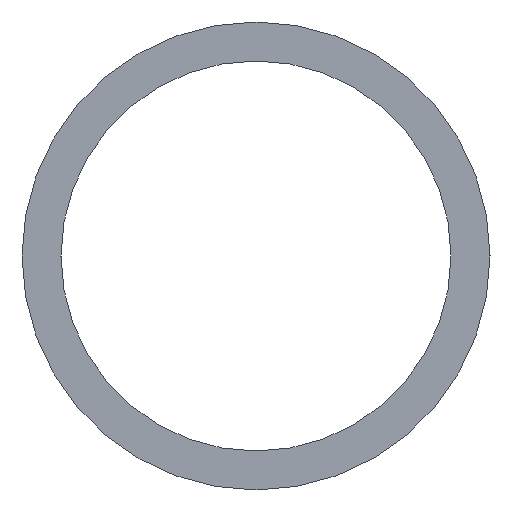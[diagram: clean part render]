
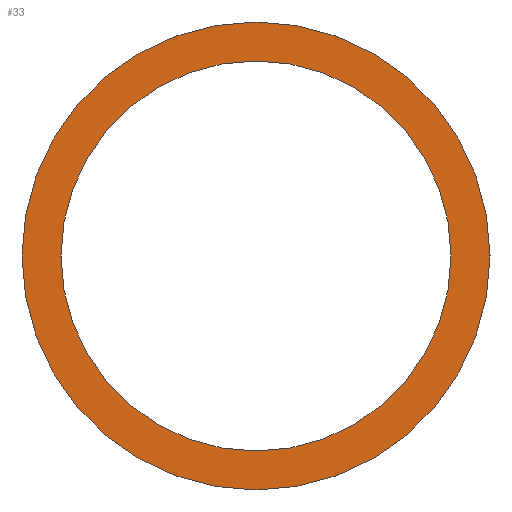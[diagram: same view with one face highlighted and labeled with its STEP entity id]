
A CAD part, left-side view. The second image highlights one B-rep face of the part: STEP entity #33.
In plain terms, the highlighted planar face has unit normal (-1, 0, 0).
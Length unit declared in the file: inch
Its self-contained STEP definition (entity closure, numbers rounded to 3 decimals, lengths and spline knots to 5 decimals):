
#3 = PLANE ( 'NONE',  #127 ) ;
#5 = EDGE_LOOP ( 'NONE', ( #59, #44 ) ) ;
#10 = VERTEX_POINT ( 'NONE', #199 ) ;
#12 = EDGE_CURVE ( 'NONE', #10, #201, #84, .T. ) ;
#22 = ORIENTED_EDGE ( 'NONE', *, *, #12, .F. ) ;
#33 = ADVANCED_FACE ( 'NONE', ( #185, #43 ), #3, .F. ) ;
#41 = EDGE_LOOP ( 'NONE', ( #22, #77 ) ) ;
#43 = FACE_OUTER_BOUND ( 'NONE', #5, .T. ) ;
#44 = ORIENTED_EDGE ( 'NONE', *, *, #102, .F. ) ;
#55 = DIRECTION ( 'NONE',  ( 0., 0., -1. ) ) ;
#58 = CARTESIAN_POINT ( 'NONE',  ( 0., 0., 0. ) ) ;
#59 = ORIENTED_EDGE ( 'NONE', *, *, #180, .F. ) ;
#73 = DIRECTION ( 'NONE',  ( 1., 0., 0. ) ) ;
#77 = ORIENTED_EDGE ( 'NONE', *, *, #195, .F. ) ;
#84 = CIRCLE ( 'NONE', #204, 0.25 ) ;
#85 = CARTESIAN_POINT ( 'NONE',  ( 0., 0., -0.3 ) ) ;
#91 = CARTESIAN_POINT ( 'NONE',  ( 0., 0., 0. ) ) ;
#98 = DIRECTION ( 'NONE',  ( 1., 0., 0. ) ) ;
#100 = CARTESIAN_POINT ( 'NONE',  ( 0., 0., -0.25 ) ) ;
#102 = EDGE_CURVE ( 'NONE', #136, #103, #107, .T. ) ;
#103 = VERTEX_POINT ( 'NONE', #176 ) ;
#107 = CIRCLE ( 'NONE', #182, 0.3 ) ;
#113 = CARTESIAN_POINT ( 'NONE',  ( 0., 0., 0. ) ) ;
#114 = DIRECTION ( 'NONE',  ( 1., 0., 0. ) ) ;
#116 = DIRECTION ( 'NONE',  ( 0., 0., 1. ) ) ;
#120 = CIRCLE ( 'NONE', #173, 0.25 ) ;
#121 = DIRECTION ( 'NONE',  ( 0., 0., 1. ) ) ;
#124 = CIRCLE ( 'NONE', #155, 0.3 ) ;
#127 = AXIS2_PLACEMENT_3D ( 'NONE', #91, #73, #133 ) ;
#131 = DIRECTION ( 'NONE',  ( -1., 0., 0. ) ) ;
#133 = DIRECTION ( 'NONE',  ( 0., 0., -1. ) ) ;
#136 = VERTEX_POINT ( 'NONE', #85 ) ;
#146 = CARTESIAN_POINT ( 'NONE',  ( 0., 0., 0. ) ) ;
#147 = DIRECTION ( 'NONE',  ( -1., 0., 0. ) ) ;
#155 = AXIS2_PLACEMENT_3D ( 'NONE', #146, #114, #55 ) ;
#158 = DIRECTION ( 'NONE',  ( 0., 0., -1. ) ) ;
#173 = AXIS2_PLACEMENT_3D ( 'NONE', #178, #131, #116 ) ;
#176 = CARTESIAN_POINT ( 'NONE',  ( 0., 0., 0.3 ) ) ;
#178 = CARTESIAN_POINT ( 'NONE',  ( 0., 0., 0. ) ) ;
#180 = EDGE_CURVE ( 'NONE', #103, #136, #124, .T. ) ;
#182 = AXIS2_PLACEMENT_3D ( 'NONE', #113, #98, #158 ) ;
#185 = FACE_BOUND ( 'NONE', #41, .T. ) ;
#195 = EDGE_CURVE ( 'NONE', #201, #10, #120, .T. ) ;
#199 = CARTESIAN_POINT ( 'NONE',  ( 0., 0., 0.25 ) ) ;
#201 = VERTEX_POINT ( 'NONE', #100 ) ;
#204 = AXIS2_PLACEMENT_3D ( 'NONE', #58, #147, #121 ) ;
